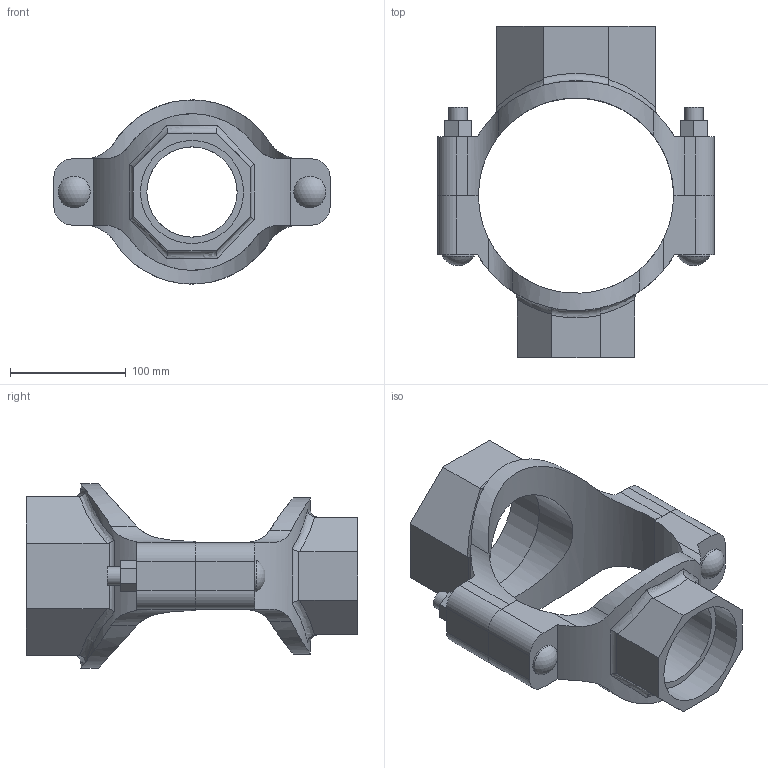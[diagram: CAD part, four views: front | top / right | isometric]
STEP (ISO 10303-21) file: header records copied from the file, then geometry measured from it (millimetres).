
FILE_DESCRIPTION(/* description */ ('VIC MECH-T BRANCH OUTLET CROSS STYLE 920N (THD)','CAx-IF Rec.Pracs.---Representation and Presentation of Product Manufacturing Information (PMI)---4.0---2014-10-13'),/* implementation_level */ '2;1');
FILE_NAME(/* name */ 'C:\Users\Vjadhav\AppData\Roaming\Autodesk\ApplicationPlugins\Back Up\Victaulic_IPS_Mechanical-Cross Outlet_Style 920N (FPT)\Victaulic_IPS_Mechanical-Cross Outlet_06.0x04.0x03.0 (150x100x80).stp',/* time_stamp */ '2020-08-06T18:59:49+05:00',/* author */ ('Vjadhav'),/* organization */ ('Victaulic'),/* preprocessor_version */ 'ST-DEVELOPER v17.2',/* originating_system */ 'Autodesk Inventor 2019',/* authorisation */ '');
FILE_SCHEMA (('AP242_MANAGED_MODEL_BASED_3D_ENGINEERING_MIM_LF { 1 0 10303 442 1 1 4 }'));
Length unit declared in the file: inch
Products named in the file (3): 920NT-06.0x04.0x03.0; 920T-06.0x04.0; 920T-06.0x03.0
Assembly tree (2 placements, depth 2):
  920NT-06.0x04.0x03.0
    920T-06.0x04.0
    920T-06.0x03.0
Bounding box: 238.25 x 285.75 x 158.75 mm (x, y, z)
Volume: 1329676.2 mm3; surface area: 228529 mm2
Topology: 2 solids, 2 shells, 131 faces, 350 edges, 236 vertices
Faces by surface type: plane 68, cylinder 49, bspline 8, torus 4, sphere 2
Full cylindrical faces by diameter (mm): 15.875 x4, 27.496 x2, 77.787 x1, 88.9 x1, 102.394 x1, 114.3 x1
Entity records: 5291 total; most frequent: CARTESIAN_POINT 1808, ORIENTED_EDGE 700, DIRECTION 634, EDGE_CURVE 350, VERTEX_POINT 236, AXIS2_PLACEMENT_3D 226, LINE 182, VECTOR 182
